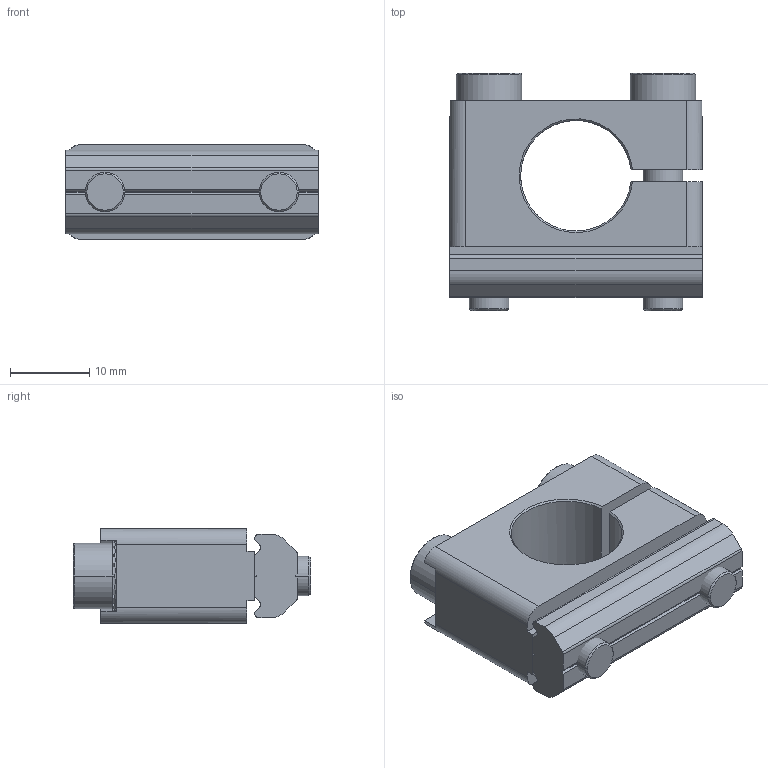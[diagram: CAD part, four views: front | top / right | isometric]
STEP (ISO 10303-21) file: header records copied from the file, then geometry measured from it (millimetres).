
FILE_DESCRIPTION (( 'STEP AP214' ), '1' );
FILE_NAME ('SMBC-1432.STEP', '2019-10-31T06:15:18', ( '微软用户' ), ( '微软中国' ), 'SwSTEP 2.0', 'SolidWorks 2016', '' );
FILE_SCHEMA (( 'AUTOMOTIVE_DESIGN' ));
Length unit declared in the file: millimetre
Products named in the file (5): PTS-M5; PTN-M5P22; PTC-M5L25; SMBC-1432
Assembly tree (6 placements, depth 2):
  SMBC-1432
    SMBC-1432
    PTC-M5L25  x2
    PTN-M5P22
    PTS-M5  x2
Bounding box: 32 x 30 x 12 mm (x, y, z)
Volume: 7077 mm3; surface area: 5987.4 mm2
Topology: 6 solids, 6 shells, 456 faces, 1332 edges, 884 vertices
Faces by surface type: plane 387, cylinder 54, cone 15
Entity records: 9446 total; most frequent: CARTESIAN_POINT 1813, ORIENTED_EDGE 1596, DIRECTION 1582, EDGE_CURVE 798, AXIS2_PLACEMENT_3D 539, VERTEX_POINT 530, VECTOR 504, LINE 504
